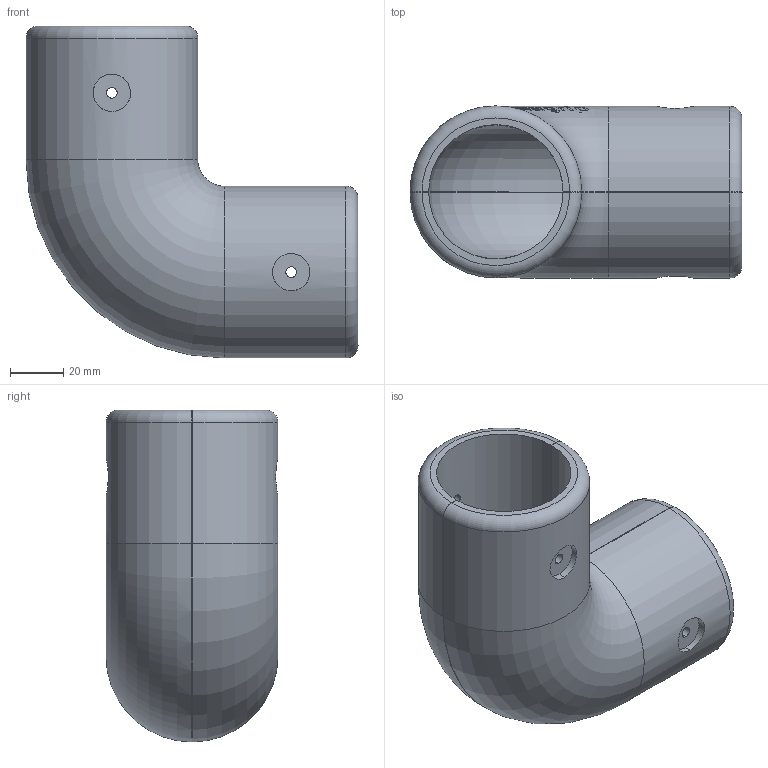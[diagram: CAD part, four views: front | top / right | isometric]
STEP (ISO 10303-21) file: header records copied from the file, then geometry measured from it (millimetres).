
FILE_DESCRIPTION (( 'STEP AP214' ), '1' );
FILE_NAME ('KIE_018.A11 Kolanko 90.STEP', '2025-01-22T18:36:31', ( '' ), ( '' ), 'SwSTEP 2.0', 'SolidWorks 2023', '' );
FILE_SCHEMA (( 'AUTOMOTIVE_DESIGN' ));
Length unit declared in the file: millimetre
Products named in the file (1): KIE_018.A11 Kolanko 90
Bounding box: 124.3 x 64.3 x 124.3 mm (x, y, z)
Volume: 205344.9 mm3; surface area: 66602.4 mm2
Topology: 2 solids, 2 shells, 57 faces, 261 edges, 225 vertices
Faces by surface type: cylinder 24, torus 21, plane 12
Entity records: 5858 total; most frequent: CARTESIAN_POINT 3885, ORIENTED_EDGE 522, EDGE_CURVE 261, DIRECTION 244, VERTEX_POINT 225, B_SPLINE_CURVE_WITH_KNOTS 177, AXIS2_PLACEMENT_3D 102, EDGE_LOOP 82
